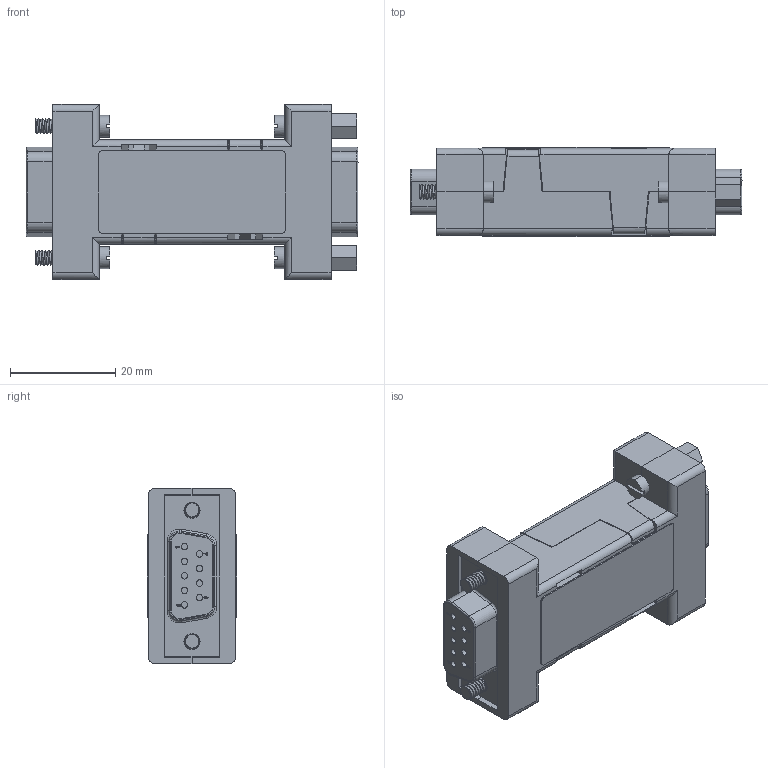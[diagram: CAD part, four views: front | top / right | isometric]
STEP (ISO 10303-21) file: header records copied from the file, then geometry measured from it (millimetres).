
FILE_DESCRIPTION (( 'STEP AP214' ), '1' );
FILE_NAME ('485SD9R.STEP', '2018-05-21T19:01:21', ( '' ), ( '' ), 'SwSTEP 2.0', 'SolidWorks 2016', '' );
FILE_SCHEMA (( 'AUTOMOTIVE_DESIGN' ));
Length unit declared in the file: inch
Products named in the file (9): 9522 hexstdoff; 9667; 250-10545-00; 1267 DB9 Female; 4444 PCB; 957-009-0Y0R0Y1; 9522 Hood; 957 Jackscrew; 485SD9R
Assembly tree (14 placements, depth 3):
  485SD9R
    957-009-0Y0R0Y1
      957 Jackscrew  x4
      9522 Hood  x2
    4444 PCB
    1267 DB9 Female  x2
    250-10545-00
    9667
    9522 hexstdoff  x2
Bounding box: 63.17 x 17.09 x 33.3 mm (x, y, z)
Volume: 13202.1 mm3; surface area: 19786.4 mm2
Topology: 13 solids, 13 shells, 1164 faces, 2960 edges, 1912 vertices
Faces by surface type: plane 568, cylinder 454, bspline 102, torus 40
Entity records: 22120 total; most frequent: CARTESIAN_POINT 6797, ORIENTED_EDGE 2822, DIRECTION 2528, EDGE_CURVE 1411, VERTEX_POINT 911, LINE 874, VECTOR 874, AXIS2_PLACEMENT_3D 827
